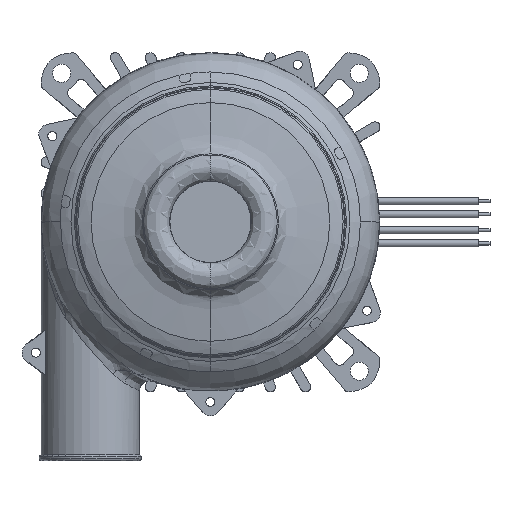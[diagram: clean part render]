
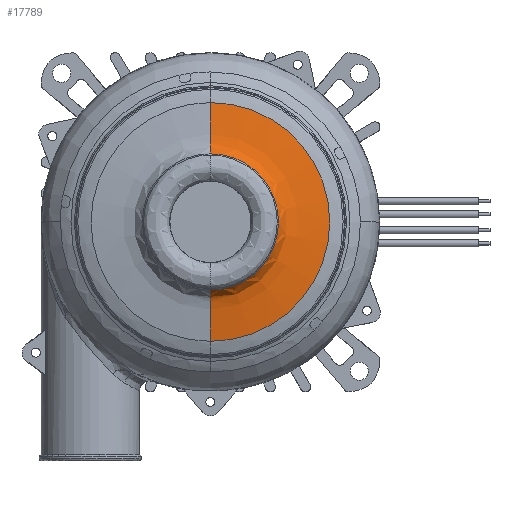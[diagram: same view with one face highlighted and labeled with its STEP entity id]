
A CAD part, top view. The second image highlights one B-rep face of the part: STEP entity #17789.
In plain terms, the highlighted face is a revolution surface.
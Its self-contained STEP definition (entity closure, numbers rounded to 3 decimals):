
#2820=CARTESIAN_POINT('',(100.,-21.011,21.599));
#2889=CARTESIAN_POINT('',(100.,21.011,21.599));
#2890=CARTESIAN_POINT('',(100.,20.891,21.618));
#2891=CARTESIAN_POINT('',(100.,19.801,21.798));
#2892=CARTESIAN_POINT('',(100.,17.586,22.135));
#2893=CARTESIAN_POINT('',(100.,15.368,22.428));
#2894=CARTESIAN_POINT('',(100.,14.066,22.766));
#2895=CARTESIAN_POINT('',(100.,13.599,22.951));
#2896=CARTESIAN_POINT('',(100.,13.241,23.168));
#2897=CARTESIAN_POINT('',(100.,12.675,23.641));
#2898=CARTESIAN_POINT('',(100.,12.253,24.187));
#2899=CARTESIAN_POINT('',(100.,12.013,24.603));
#2900=CARTESIAN_POINT('',(100.,11.984,24.655));
#2913=CARTESIAN_POINT('',(100.,0.,21.599));
#2914=DIRECTION('',(0.,0.,-1.));
#2915=DIRECTION('',(0.,1.,0.));
#2916=AXIS2_PLACEMENT_3D('',#2913,#2914,#2915);
#2921=CARTESIAN_POINT('',(100.,-21.011,21.599));
#2922=CARTESIAN_POINT('',(100.,-20.891,21.618));
#2923=CARTESIAN_POINT('',(100.,-19.801,21.798));
#2924=CARTESIAN_POINT('',(100.,-17.586,22.135));
#2925=CARTESIAN_POINT('',(100.,-15.368,22.428));
#2926=CARTESIAN_POINT('',(100.,-14.066,22.766));
#2927=CARTESIAN_POINT('',(100.,-13.599,22.951));
#2928=CARTESIAN_POINT('',(100.,-13.241,23.168));
#2929=CARTESIAN_POINT('',(100.,-12.675,23.641));
#2930=CARTESIAN_POINT('',(100.,-12.253,24.187));
#2931=CARTESIAN_POINT('',(100.,-12.013,24.603));
#2932=CARTESIAN_POINT('',(100.,-11.984,24.655));
#2937=CARTESIAN_POINT('',(100.,0.,24.655));
#2938=DIRECTION('',(0.,0.,1.));
#2939=DIRECTION('',(0.,-1.,0.));
#2940=AXIS2_PLACEMENT_3D('',#2937,#2938,#2939);
#14001=VERTEX_POINT('',#2820);
#14002=CARTESIAN_POINT('',(100.,21.011,21.599));
#14003=VERTEX_POINT('',#14002);
#14008=VERTEX_POINT('',#2900);
#14009=CARTESIAN_POINT('',(100.,-11.984,24.655));
#14010=VERTEX_POINT('',#14009);
#17760=CARTESIAN_POINT('',(100.,11.937,24.742));
#17761=CARTESIAN_POINT('',(100.,11.953,24.713));
#17762=CARTESIAN_POINT('',(100.,11.997,24.632));
#17763=CARTESIAN_POINT('',(100.,12.253,24.187));
#17764=CARTESIAN_POINT('',(100.,12.675,23.641));
#17765=CARTESIAN_POINT('',(100.,13.241,23.168));
#17766=CARTESIAN_POINT('',(100.,13.599,22.951));
#17767=CARTESIAN_POINT('',(100.,14.066,22.766));
#17768=CARTESIAN_POINT('',(100.,15.368,22.428));
#17769=CARTESIAN_POINT('',(100.,17.586,22.135));
#17770=CARTESIAN_POINT('',(100.,19.801,21.798));
#17771=CARTESIAN_POINT('',(100.,20.924,21.613));
#17772=CARTESIAN_POINT('',(100.,21.076,21.588));
#17773=CARTESIAN_POINT('',(100.,21.109,21.582));
#17778=CARTESIAN_POINT('',(100.,0.,-0.489));
#17779=DIRECTION('',(0.,0.,1.));
#17780=AXIS1_PLACEMENT('',#17778,#17779);
#17781=SURFACE_OF_REVOLUTION('',#17774,#17780);
#17782=ORIENTED_EDGE('',*,*,#17743,.F.);
#17783=ORIENTED_EDGE('',*,*,#17629,.T.);
#17784=ORIENTED_EDGE('',*,*,#17747,.T.);
#17786=ORIENTED_EDGE('',*,*,#17785,.T.);
#17787=EDGE_LOOP('',(#17782,#17783,#17784,#17786));
#17788=FACE_OUTER_BOUND('',#17787,.F.);
#17789=ADVANCED_FACE('',(#17788),#17781,.F.);
#2901=B_SPLINE_CURVE_WITH_KNOTS('',3,(#2889,#2890,#2891,#2892,#2893,#2894,#2895,
#2896,#2897,#2898,#2899,#2900),.UNSPECIFIED.,.F.,.F.,(4,1,1,1,1,1,1,1,1,4),
(0.,0.028,0.252,0.5,0.579,
0.659,0.737,0.816,0.977,1.),
.UNSPECIFIED.);
#2917=CIRCLE('',#2916,21.011);
#2933=B_SPLINE_CURVE_WITH_KNOTS('',3,(#2921,#2922,#2923,#2924,#2925,#2926,#2927,
#2928,#2929,#2930,#2931,#2932),.UNSPECIFIED.,.F.,.F.,(4,1,1,1,1,1,1,1,1,4),
(0.,0.028,0.252,0.5,0.579,
0.659,0.737,0.816,0.977,1.),
.UNSPECIFIED.);
#2941=CIRCLE('',#2940,11.984);
#17629=EDGE_CURVE('',#14003,#14001,#2917,.T.);
#17743=EDGE_CURVE('',#14003,#14008,#2901,.T.);
#17747=EDGE_CURVE('',#14001,#14010,#2933,.T.);
#17774=B_SPLINE_CURVE_WITH_KNOTS('',3,(#17760,#17761,#17762,#17763,#17764,
#17765,#17766,#17767,#17768,#17769,#17770,#17771,#17772,#17773),.UNSPECIFIED.,
.F.,.F.,(4,1,1,1,1,1,1,1,1,1,1,4),(0.,0.013,0.035,
0.193,0.27,0.347,0.425,
0.503,0.745,0.965,0.993,1.),
.UNSPECIFIED.);
#17785=EDGE_CURVE('',#14010,#14008,#2941,.T.);
